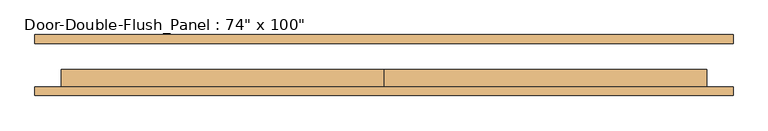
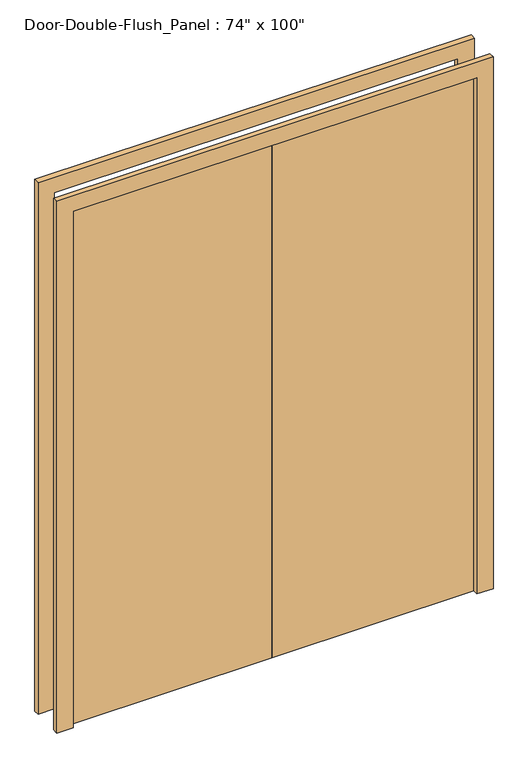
"""IFC4 building model written with IfcOpenShell, lengths in millimetres: door geometry."""

from ifc_helpers import new_model, si_unit, frame, origin, origin_with_axes, place, context, project, spatial, polyline, outline, extrude, source, transform, mapped, element, save


def door_e38457ce(model_context):
    return source(origin(), model_context, "Body", "SweptSolid", [
        extrude(outline(polyline([(2540.0, -939.8), (2540.0, 939.8), (0.0, 939.8), (0.0, 1016.0), (2616.2, 1016.0), (2616.2, -1016.0), (0.0, -1016.0), (0.0, -939.8), (2540.0, -939.8)])), frame((0.0, 63.5, 0.0), z_axis=(0.0, 1.0, 0.0), x_axis=(0.0, 0.0, 1.0)), (0.0, 0.0, 1.0), 25.4),
        extrude(outline(polyline([(2540.0, -939.8), (2540.0, 939.8), (0.0, 939.8), (0.0, 1016.0), (2616.2, 1016.0), (2616.2, -1016.0), (0.0, -1016.0), (0.0, -939.8), (2540.0, -939.8)])), frame((0.0, -88.9, 0.0), z_axis=(0.0, 1.0, 0.0), x_axis=(0.0, 0.0, 1.0)), (0.0, 0.0, 1.0), 25.4),
        extrude(outline(polyline([(0.0, -63.5), (0.0, -12.7), (939.8, -12.7), (939.8, -63.5), (0.0, -63.5)])), origin_with_axes(), (0.0, 0.0, 1.0), 2540.0),
        extrude(outline(polyline([(-939.8, -63.5), (-939.8, -12.7), (0.0, -12.7), (0.0, -63.5), (-939.8, -63.5)])), origin_with_axes(), (0.0, 0.0, 1.0), 2540.0),
    ])


if __name__ == "__main__":
    model = new_model("IFC4")
    model_context = context("Model", 3, world=origin())
    ifc_project = project(units=[si_unit("LENGTHUNIT", "METRE", prefix="MILLI")], contexts=[model_context])
    site = spatial("IfcSite", under=ifc_project)
    building = spatial("IfcBuilding", under=site)
    placement = place(None, origin())
    door_shape = door_e38457ce(model_context)
    element("IfcDoor", 1, ObjectType="Door-Double-Flush_Panel : 74\" x 100\"", at=placement, inside=building, context=model_context, shape_type="MappedRepresentation", body=[
        mapped(door_shape, transform((0.0, 0.0, 0.0), x_axis=(1.0, 0.0, 0.0), y_axis=(0.0, 1.0, 0.0), z_axis=(0.0, 0.0, 1.0))),
    ])
    save(model, "model.ifc")
